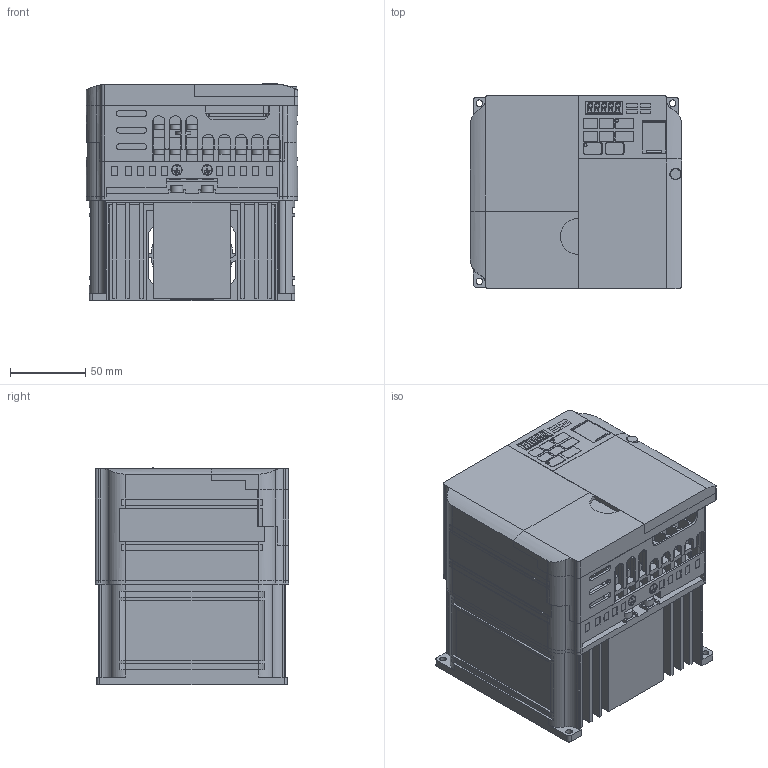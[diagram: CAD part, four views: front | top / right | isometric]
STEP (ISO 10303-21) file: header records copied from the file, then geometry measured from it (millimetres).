
FILE_DESCRIPTION((''),'2;1');
FILE_NAME('V1000_IP20_FRAME_J1_ASM','2010-07-20T',('jc'),('YASKAWA ELECTRIC CORCORATION'),'PRO/ENGINEER BY PARAMETRIC TECHNOLOGY CORPORATION, 2008490','PRO/ENGINEER BY PARAMETRIC TECHNOLOGY CORPORATION, 2008490','');
FILE_SCHEMA(('CONFIG_CONTROL_DESIGN'));
Length unit declared in the file: millimetre
Products named in the file (25): NONE-32921; SHITA_COVER_C1________ANY_ASM; NONE-57118; TANSHI_COVER_C________ANY_ASM; NONE-32570; ASM0088_ASM; NONE-32813; ASM0089_ASM; NONE-46346; ASM0090_ASM; NONE-86667; ASM0091_ASM; NONE-26872; BASE_HEATSINK_C1________ANY_ASM; NONE-26383; ASM0092_ASM; NONE-37661; BASE_CASE_C1________ANY_ASM; NONE-37058; BASE_FAN_C________ANY_ASM; NONE-41487; ASM0093_ASM; CIMR_VZ4A0011BAA_ANY_ASM; _2A0020B_4A0011B; V1000_IP20_FRAME_J1_ASM
Assembly tree (24 placements, depth 4):
  V1000_IP20_FRAME_J1_ASM
    CIMR_VZ4A0011BAA_ANY_ASM
      SHITA_COVER_C1________ANY_ASM
        NONE-32921
      TANSHI_COVER_C________ANY_ASM
        NONE-57118
      ASM0088_ASM
        NONE-32570
      ASM0089_ASM
        NONE-32813
      ASM0090_ASM
        NONE-46346
      ASM0091_ASM
        NONE-86667
      BASE_HEATSINK_C1________ANY_ASM
        NONE-26872
      ASM0092_ASM
        NONE-26383
      BASE_CASE_C1________ANY_ASM
        NONE-37661
      BASE_FAN_C________ANY_ASM
        NONE-37058
      ASM0093_ASM
        NONE-41487
    _2A0020B_4A0011B
Bounding box: 140 x 128 x 144 mm (x, y, z)
Volume: 1622914.3 mm3; surface area: 369726.6 mm2
Topology: 11 solids, 11 shells, 2006 faces, 5448 edges, 3611 vertices
Faces by surface type: plane 1599, cylinder 407
Entity records: 63504 total; most frequent: CARTESIAN_POINT 11237, ORIENTED_EDGE 10896, DIRECTION 10509, EDGE_CURVE 5448, VECTOR 4515, LINE 4515, VERTEX_POINT 3611, AXIS2_PLACEMENT_3D 2997
